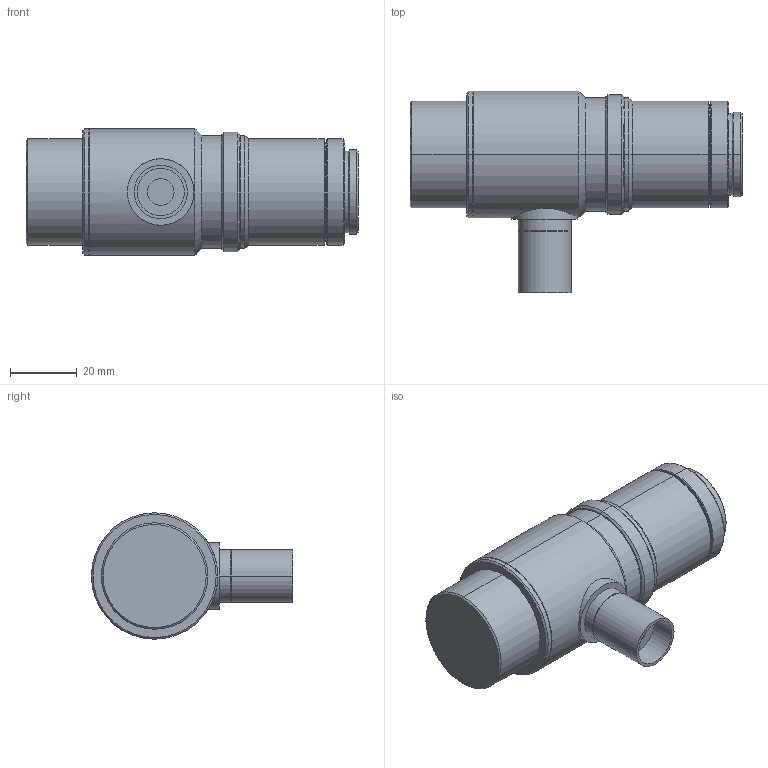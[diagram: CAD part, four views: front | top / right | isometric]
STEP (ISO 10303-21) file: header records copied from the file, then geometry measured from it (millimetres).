
FILE_DESCRIPTION (( 'STEP AP203' ), '1' );
FILE_NAME ('VS-TCM2-65CO_S.STEP', '2016-08-22T04:34:29', ( 'miura_vst' ), ( '' ), 'SwSTEP 2.0', 'SolidWorks 2016', '' );
FILE_SCHEMA (( 'CONFIG_CONTROL_DESIGN' ));
Length unit declared in the file: millimetre
Products named in the file (1): VS-TCM2-65CO_S
Bounding box: 99.8 x 60.5 x 38 mm (x, y, z)
Volume: 95510.8 mm3; surface area: 14906.6 mm2
Topology: 1 solids, 1 shells, 78 faces, 154 edges, 88 vertices
Faces by surface type: cone 34, cylinder 32, plane 12
Entity records: 2161 total; most frequent: CARTESIAN_POINT 417, DIRECTION 396, ORIENTED_EDGE 308, AXIS2_PLACEMENT_3D 165, EDGE_CURVE 154, VERTEX_POINT 88, EDGE_LOOP 88, CIRCLE 86
